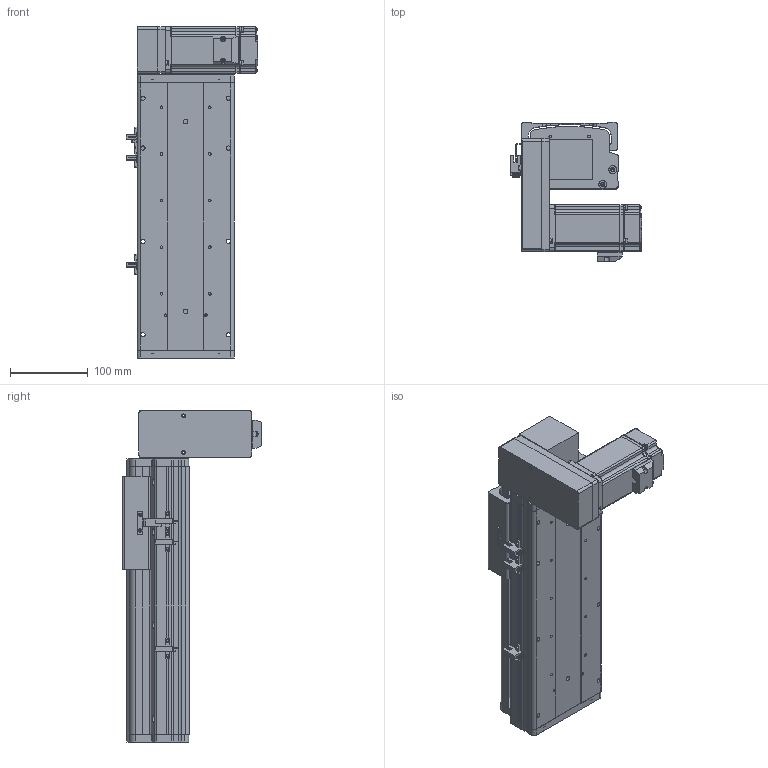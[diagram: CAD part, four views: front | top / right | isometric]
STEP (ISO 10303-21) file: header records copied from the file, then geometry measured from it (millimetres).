
FILE_DESCRIPTION (( 'STEP AP214' ), '1' );
FILE_NAME ('KSD125B-S150-MRD-CM.STEP', '2017-10-21T05:55:52', ( '微软用户' ), ( '微软中国' ), 'SwSTEP 2.0', 'SolidWorks 2014', '' );
FILE_SCHEMA (( 'AUTOMOTIVE_DESIGN' ));
Length unit declared in the file: millimetre
Products named in the file (17): KSD125模组同步带-滑动座1; KSD125B-S150-MRD-CM; 悵誘欶奻狟殏; HTPA30S3M150_A_H6_a佪裝蚚; HTPA30S3M150_A_H6_a萇儂蚚; 100宽马达安装板连板上下折丝杆同步带; KSD125模组150行程同步带-防尘盖; 125模组150行程同步带-底板; MHMD042G1CA_2_03; KSD125模组同步带-防撞垫2; 覜茼え68遵圉猾敕; U倰嫖萇假蚾璃; U倰嫖萇EEㄜSX672; KSD125模组同步带-防撞垫1; 100宽马达安装板同步带右; 前端板-125宽模组同步带; 125模组同步带-尾端板1
Assembly tree (20 placements, depth 2):
  KSD125B-S150-MRD-CM
    KSD125模组同步带-滑动座1
    125模组同步带-尾端板1
    前端板-125宽模组同步带
    100宽马达安装板同步带右
    KSD125模组同步带-防撞垫1
    U倰嫖萇EEㄜSX672  x3
    U倰嫖萇假蚾璃  x3
    覜茼え68遵圉猾敕
    KSD125模组同步带-防撞垫2
    MHMD042G1CA_2_03
    125模组150行程同步带-底板
    KSD125模组150行程同步带-防尘盖
    100宽马达安装板连板上下折丝杆同步带
    HTPA30S3M150_A_H6_a萇儂蚚
    HTPA30S3M150_A_H6_a佪裝蚚
    悵誘欶奻狟殏
Bounding box: 168.7 x 179.5 x 427 mm (x, y, z)
Volume: 1655410 mm3; surface area: 606462.7 mm2
Topology: 19 solids, 22 shells, 2195 faces, 6349 edges, 4194 vertices
Faces by surface type: cylinder 1352, plane 716, cone 105, bspline 22
Entity records: 77459 total; most frequent: CARTESIAN_POINT 15363, DIRECTION 12058, ORIENTED_EDGE 11218, EDGE_CURVE 5687, AXIS2_PLACEMENT_3D 4641, VERTEX_POINT 3786, VECTOR 2776, LINE 2776
